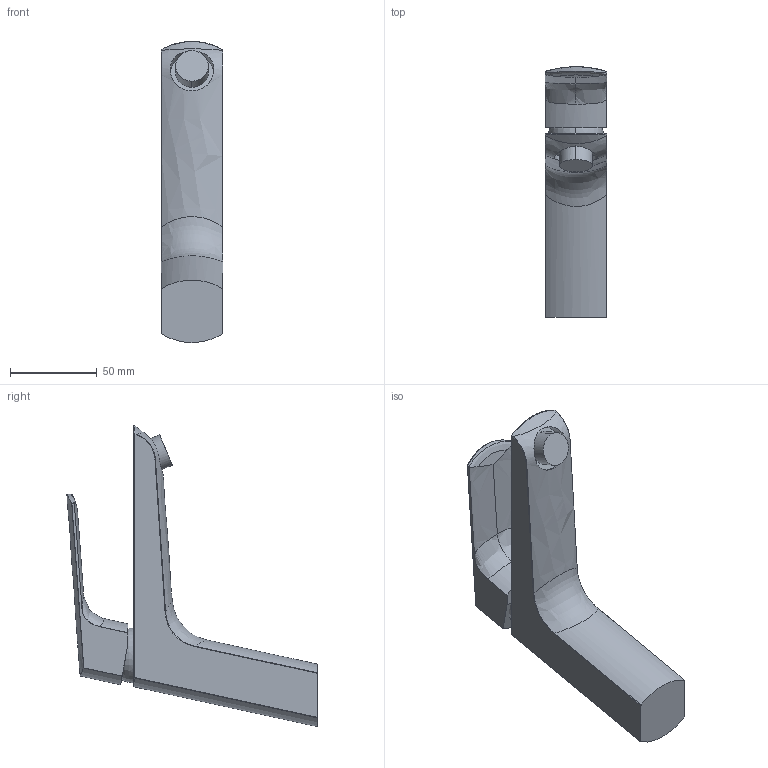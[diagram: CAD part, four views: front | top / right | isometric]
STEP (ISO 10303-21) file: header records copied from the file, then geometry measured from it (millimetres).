
FILE_DESCRIPTION (( 'STEP AP203' ), '1' );
FILE_NAME ('SL1500.STEP', '2016-08-15T08:12:59', ( '' ), ( '' ), 'SwSTEP 2.0', 'SolidWorks 2016', '' );
FILE_SCHEMA (( 'CONFIG_CONTROL_DESIGN' ));
Length unit declared in the file: millimetre
Products named in the file (1): SL1500
Bounding box: 35.55 x 143.93 x 173.2 mm (x, y, z)
Volume: 246919.1 mm3; surface area: 41163.3 mm2
Topology: 3 solids, 3 shells, 85 faces, 202 edges, 119 vertices
Faces by surface type: bspline 39, cylinder 23, plane 13, sphere 8, torus 2
Entity records: 5589 total; most frequent: CARTESIAN_POINT 3931, ORIENTED_EDGE 392, DIRECTION 242, EDGE_CURVE 196, VERTEX_POINT 119, AXIS2_PLACEMENT_3D 102, EDGE_LOOP 87, ADVANCED_FACE 85
